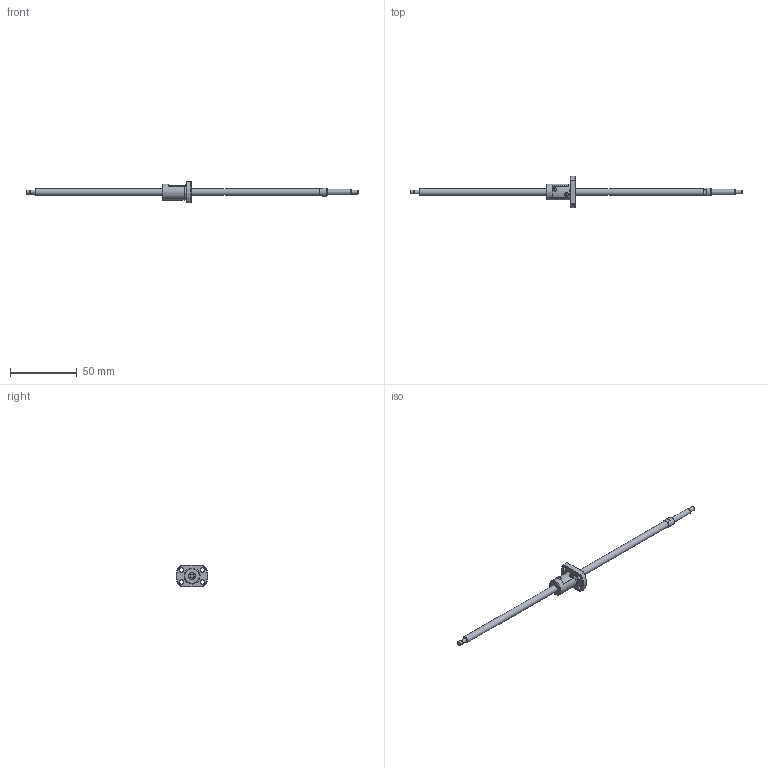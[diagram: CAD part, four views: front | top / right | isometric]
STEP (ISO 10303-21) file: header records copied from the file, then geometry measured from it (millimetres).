
FILE_DESCRIPTION(/* description */ ('STEP AP214'),/* implementation_level */ '2;1');
FILE_NAME(/* name */ 'SRT0504-209R249C7B0X(95Processing)',/* time_stamp */ '2026-08-04T17:52:27+02:00',/* author */ ('License CC BY-ND 4.0'),/* organization */ ('CADENAS'),/* preprocessor_version */ 'ST-DEVELOPER v20',/* originating_system */ 'PARTsolutions',/* authorisation */ ' ');
FILE_SCHEMA (('AUTOMOTIVE_DESIGN {1 0 10303 214 3 1 1}'));
Length unit declared in the file: millimetre
Products named in the file (3): SRT0504-209R249C7B0X(95Processing); SRT0504-209R275BCt7Processing10Shaft; SRT0504Nut
Assembly tree (2 placements, depth 2):
  SRT0504-209R249C7B0X(95Processing)
    SRT0504-209R275BCt7Processing10Shaft
    SRT0504Nut
Bounding box: 249 x 23.92 x 16 mm (x, y, z)
Volume: 7389.1 mm3; surface area: 5924.7 mm2
Topology: 2 solids, 2 shells, 65 faces, 155 edges, 102 vertices
Faces by surface type: plane 33, cylinder 19, cone 12, torus 1
Full cylindrical faces by diameter (mm): 1 x2, 2.7 x1, 3 x3, 3.4 x4, 4 x1, 5 x2, 6 x1, 11.5 x1, 12 x1
Entity records: 1783 total; most frequent: CARTESIAN_POINT 342, DIRECTION 296, ORIENTED_EDGE 234, AXIS2_PLACEMENT_3D 129, EDGE_CURVE 117, EDGE_LOOP 108, FACE_BOUND 108, VERTEX_POINT 89
